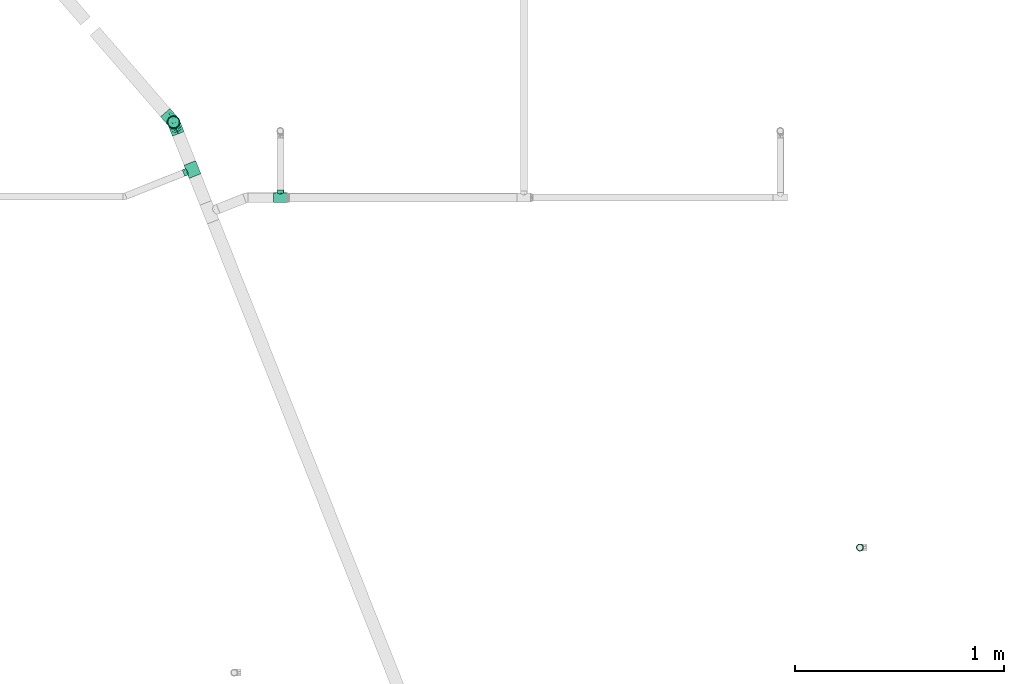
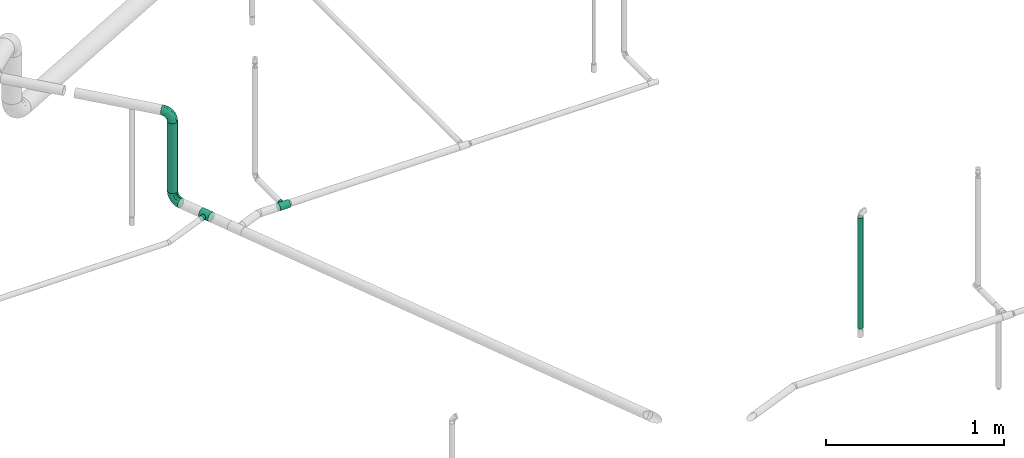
# One storey, part 10 of 94: 4 flow fittings, 2 flow segments.
"""IFC2X3 building model written with IfcOpenShell, lengths in millimetres."""

import ifcopenshell
import ifcopenshell.guid

model = None  # the IFC model being written
_history = None  # IfcOwnerHistory: only IFC2X3 demands one
_inside = {}  # id of a spatial element -> (the spatial element, [elements in it])
_under = {}  # id of a project, library or spatial element -> (it, [spatial elements below it])
_declared = {}  # id of a project -> (the project, [libraries it declares])
_typed = {}  # id of a type object -> (the type object, [elements of that type])
_made_of = {}  # id of a material, layer set ... -> (it, [elements and type objects made of it])


def new_model(schema):
    """Start an empty IFC model of exactly this schema.

    Asked for "IFC4X3", IfcOpenShell would pick the latest addendum, in which some entities
    have other attributes; the version numbers below select the first issue.
    IFC2X3 requires an IfcOwnerHistory on every rooted entity: one is made here for all.
    """
    global model, _history
    if schema == "IFC4X3":
        model = ifcopenshell.file(schema_version=(4, 3, 0, 0))
    else:
        model = ifcopenshell.file(schema=schema)
    _inside.clear()
    _under.clear()
    _declared.clear()
    _typed.clear()
    _made_of.clear()
    _history = None
    if model.schema == "IFC2X3":
        org = make("IfcOrganization", Name="unknown")
        user = make(
            "IfcPersonAndOrganization",
            ThePerson=make("IfcPerson", FamilyName="unknown"),
            TheOrganization=org,
        )
        app = make(
            "IfcApplication",
            ApplicationDeveloper=org,
            Version="unknown",
            ApplicationFullName="unknown",
            ApplicationIdentifier="unknown",
        )
        _history = make(
            "IfcOwnerHistory",
            OwningUser=user,
            OwningApplication=app,
            ChangeAction="ADDED",
            CreationDate=0,
        )
    return model


def make(cls, **values):
    """One entity of the class cls with the attributes given. An attribute that is None is left unset."""
    return model.create_entity(
        cls, **{name: value for name, value in values.items() if value is not None}
    )


def entity(cls, *values):
    """Any entity or typed value of the class cls, its attributes in the order of the schema. None: left unset."""
    e = model.create_entity(cls)
    for i, value in enumerate(values):
        if value is not None:
            e[i] = value
    return e


def rooted(cls, **values):
    """An entity with a GlobalId (a new one), such as an element, a storey or a relation."""
    return make(cls, GlobalId=ifcopenshell.guid.new(), OwnerHistory=_history, **values)


def si_unit(unit_type, name, prefix=None):
    """IfcSIUnit, for example si_unit("LENGTHUNIT", "METRE", prefix="MILLI")."""
    return make("IfcSIUnit", UnitType=unit_type, Prefix=prefix, Name=name)


def converted_unit(unit_type, name, factor, base, dimensions=None, offset=None):
    """IfcConversionBasedUnit, such as the inch: factor (a typed value) times the base unit."""
    return make(
        "IfcConversionBasedUnit"
        if offset is None
        else "IfcConversionBasedUnitWithOffset",
        ConversionOffset=offset,
        Dimensions=None
        if dimensions is None
        else entity("IfcDimensionalExponents", *dimensions),
        UnitType=unit_type,
        Name=name,
        ConversionFactor=make(
            "IfcMeasureWithUnit", ValueComponent=factor, UnitComponent=base
        ),
    )


def derived_unit(unit_type, elements):
    """IfcDerivedUnit: a product of units, each with its exponent."""
    return make(
        "IfcDerivedUnit",
        Elements=[
            make("IfcDerivedUnitElement", Unit=unit, Exponent=power)
            for unit, power in elements
        ],
        UnitType=unit_type,
    )


def assignment(units):
    """IfcUnitAssignment: the units of a project."""
    return None if units is None else make("IfcUnitAssignment", Units=units)


def point(xyz):
    """IfcCartesianPoint."""
    return None if xyz is None else make("IfcCartesianPoint", Coordinates=xyz)


def direction(xyz):
    """IfcDirection."""
    return None if xyz is None else make("IfcDirection", DirectionRatios=xyz)


def frame(location, z_axis=None, x_axis=None):
    """IfcAxis2Placement3D, a coordinate frame: its origin and axes. An axis left out is left unset."""
    return make(
        "IfcAxis2Placement3D",
        Location=point(location),
        Axis=direction(z_axis),
        RefDirection=direction(x_axis),
    )


def frame_2d(location, x_axis=None):
    """IfcAxis2Placement2D, a coordinate frame in the plane: its origin and x axis."""
    return make(
        "IfcAxis2Placement2D", Location=point(location), RefDirection=direction(x_axis)
    )


def origin_with_axes():
    """The frame at (0, 0, 0) with the z axis (0, 0, 1) and the x axis (1, 0, 0) written out."""
    return frame((0.0, 0.0, 0.0), z_axis=(0.0, 0.0, 1.0), x_axis=(1.0, 0.0, 0.0))


def origin_2d_with_axis():
    """The frame at (0, 0) in the plane with the x axis (1, 0) written out."""
    return frame_2d((0.0, 0.0), x_axis=(1.0, 0.0))


def place(relative_to, where):
    """IfcLocalPlacement: puts the frame where relative to a parent placement (None: the world)."""
    return make(
        "IfcLocalPlacement", PlacementRelTo=relative_to, RelativePlacement=where
    )


def context(
    kind, dimensions, precision=None, world=None, true_north=None, identifier=None
):
    """IfcGeometricRepresentationContext, for example the 3D "Model" context."""
    return make(
        "IfcGeometricRepresentationContext",
        ContextIdentifier=identifier,
        ContextType=kind,
        CoordinateSpaceDimension=dimensions,
        Precision=precision,
        WorldCoordinateSystem=world,
        TrueNorth=true_north,
    )


def subcontext(parent, identifier, kind, view, scale=None):
    """IfcGeometricRepresentationSubContext, for example "Body" below "Model"."""
    return make(
        "IfcGeometricRepresentationSubContext",
        ContextIdentifier=identifier,
        ContextType=kind,
        ParentContext=parent,
        TargetScale=scale,
        TargetView=view,
    )


def project(units=None, contexts=None):
    """IfcProject with its units and contexts."""
    return rooted(
        "IfcProject",
        Name="project",
        RepresentationContexts=contexts,
        UnitsInContext=assignment(units),
    )


def spatial(cls, under=None, at=None, **own):
    """A site, building, storey or space (cls), placed at a placement, below another one or the project."""
    s = rooted(cls, ObjectPlacement=at, **own)
    if under is not None:
        _under.setdefault(under.id(), (under, []))[1].append(s)
    return s


def profile(cls, at=None, kind="AREA", **sizes):
    """A parametric profile (cls). Its sizes go by their IFC names, for example OverallWidth=200.0."""
    return make(cls, ProfileType=kind, Position=at, **sizes)


def hollow_circle(**sizes):
    """IfcCircleHollowProfileDef."""
    return profile("IfcCircleHollowProfileDef", **sizes)


def extrude(swept, where, along, depth):
    """IfcExtrudedAreaSolid: the profile swept, set in the frame where, extruded along a direction by depth."""
    return make(
        "IfcExtrudedAreaSolid",
        SweptArea=swept,
        Position=where,
        ExtrudedDirection=direction(along),
        Depth=depth,
    )


def faces_of(points, faces, orient=None, outer=None):
    """IfcFace entities. A face is a list of loops; a loop is a list of indices into points, from 0.

    orient and outer hold one flag for each loop. By default every Orientation is true, the
    first loop of a face is its IfcFaceOuterBound and the others are IfcFaceBound.
    """
    made = []
    for i, loops in enumerate(faces):
        bounds = []
        for j, loop in enumerate(loops):
            is_outer = j == 0 if outer is None else outer[i][j]
            bounds.append(
                make(
                    "IfcFaceOuterBound" if is_outer else "IfcFaceBound",
                    Bound=make("IfcPolyLoop", Polygon=[points[k] for k in loop]),
                    Orientation=True if orient is None else orient[i][j],
                )
            )
        made.append(make("IfcFace", Bounds=bounds))
    return made


def open_shell(faces, orient=None, outer=None):
    """The faces of one IfcOpenShell. surface_model builds it on its shared points."""
    return ("IfcOpenShell", faces, orient, outer)


def surface_model(cls, points, shells):
    """IfcFaceBasedSurfaceModel or IfcShellBasedSurfaceModel (cls): surfaces that need not close."""
    shared = [point(p) for p in points]
    made = [make(c, CfsFaces=faces_of(shared, fs, o, b)) for c, fs, o, b in shells]
    if cls == "IfcFaceBasedSurfaceModel":
        return make(cls, FbsmFaces=made)
    return make(cls, SbsmBoundary=made)


def shape(context_of_items, identifier, shape_type, items):
    """IfcShapeRepresentation: the items that make up one representation, for example the "Body"."""
    return make(
        "IfcShapeRepresentation",
        ContextOfItems=context_of_items,
        RepresentationIdentifier=identifier,
        RepresentationType=shape_type,
        Items=items,
    )


def source(mapping_origin, context_of_items, identifier, shape_type, items):
    """IfcRepresentationMap: a shape defined once, which mapped items show again and again."""
    return make(
        "IfcRepresentationMap",
        MappingOrigin=mapping_origin,
        MappedRepresentation=shape(context_of_items, identifier, shape_type, items),
    )


def transform(
    local_origin,
    x_axis=None,
    y_axis=None,
    z_axis=None,
    scale=None,
    scale2=None,
    scale3=None,
    uniform=True,
):
    """IfcCartesianTransformationOperator3D, or its non-uniform kind. x_axis, y_axis, z_axis: its Axis1, 2, 3."""
    if uniform:
        return make(
            "IfcCartesianTransformationOperator3D",
            Axis1=direction(x_axis),
            Axis2=direction(y_axis),
            LocalOrigin=point(local_origin),
            Scale=scale,
            Axis3=direction(z_axis),
        )
    return make(
        "IfcCartesianTransformationOperator3DnonUniform",
        Axis1=direction(x_axis),
        Axis2=direction(y_axis),
        LocalOrigin=point(local_origin),
        Scale=scale,
        Axis3=direction(z_axis),
        Scale2=scale2,
        Scale3=scale3,
    )


def mapped(mapping_source, mapping_target):
    """IfcMappedItem: shows the shape of a source again, moved by a transform."""
    return make(
        "IfcMappedItem", MappingSource=mapping_source, MappingTarget=mapping_target
    )


def made_of(thing, what):
    """Note that an element or type object is made of a material, layer set ...; save() writes the relation."""
    if what is not None:
        _made_of.setdefault(what.id(), (what, []))[1].append(thing)
    return thing


def type_object(cls, material=None, **own):
    """A type object (cls), such as IfcWallType, which elements share."""
    return made_of(rooted(cls, **own), material)


def element(
    cls,
    number,
    at=None,
    inside=None,
    cuts=None,
    type_object=None,
    material=None,
    context=None,
    identifier="Body",
    shape_type=None,
    held_by="IfcProductDefinitionShape",
    body=None,
    shapes=None,
    **own,
):
    """One element of the class cls, such as IfcWall. Its Tag is "e" and its number.

    at: its placement. inside: the storey or other place that contains it. cuts: it is an
    opening in that element (IfcRelVoidsElement). A single representation is given by context,
    identifier, shape_type and body (its items); several are given by shapes. held_by: the class
    of the entity that holds the representations. save() writes the other relations.
    """
    e = rooted(cls, Tag="e%d" % number, ObjectPlacement=at, **own)
    if body is not None:
        shapes = [shape(context, identifier, shape_type, body)]
    if shapes is not None:
        e.Representation = make(held_by, Representations=shapes)
    if inside is not None:
        _inside.setdefault(inside.id(), (inside, []))[1].append(e)
    if cuts is not None:
        rooted(
            "IfcRelVoidsElement", RelatingBuildingElement=cuts, RelatedOpeningElement=e
        )
    if type_object is not None:
        _typed.setdefault(type_object.id(), (type_object, []))[1].append(e)
    return made_of(e, material)


def aggregate(whole, parts):
    """IfcRelAggregates: a whole, such as a stair, and the parts it consists of."""
    return rooted("IfcRelAggregates", RelatingObject=whole, RelatedObjects=parts)


def save(model, path):
    """Write the relations noted so far, then the file.

    IfcRelAggregates (storeys below a building ...), IfcRelContainedInSpatialStructure (elements
    in a storey), IfcRelDefinesByType, IfcRelAssociatesMaterial and IfcRelDeclares: one each for
    every whole, place, type object, material and project.
    """
    for whole, parts in _under.values():
        aggregate(whole, parts)
    for where, things in _inside.values():
        rooted(
            "IfcRelContainedInSpatialStructure",
            RelatedElements=things,
            RelatingStructure=where,
        )
    for kind, things in _typed.values():
        rooted("IfcRelDefinesByType", RelatedObjects=things, RelatingType=kind)
    for what, things in _made_of.values():
        rooted("IfcRelAssociatesMaterial", RelatedObjects=things, RelatingMaterial=what)
    for by, libraries in _declared.values():
        rooted("IfcRelDeclares", RelatingContext=by, RelatedDefinitions=libraries)
    model.write(path)


model = new_model("IFC2X3")

# Units and contexts
model_context = context("Model", 3, precision=0.01, world=frame((0.0, 4.29681676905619e-09, 0.0)), true_north=direction((4.01073788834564e-13, 1.0)))
plan_context = context("Plan", 3, precision=0.01, world=frame((0.0, 4.29681676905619e-09, 0.0)), true_north=direction((4.01073788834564e-13, 1.0)))
body_context = subcontext(model_context, "Body", "Model", "MODEL_VIEW")
ifc_project = project(units=[converted_unit("PLANEANGLEUNIT", "DEGREE", entity("IfcPositiveLengthMeasure", 0.0174532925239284), si_unit("PLANEANGLEUNIT", "RADIAN"), dimensions=[0, 0, 0, 0, 0, 0, 0]), si_unit("AREAUNIT", "SQUARE_METRE"), si_unit("LENGTHUNIT", "METRE", prefix="MILLI"), si_unit("MASSUNIT", "GRAM", prefix="KILO"), si_unit("POWERUNIT", "WATT"), si_unit("PRESSUREUNIT", "PASCAL", prefix="KILO"), si_unit("FORCEUNIT", "NEWTON", prefix="KILO"), si_unit("ELECTRICVOLTAGEUNIT", "VOLT"), si_unit("ELECTRICCURRENTUNIT", "AMPERE"), si_unit("THERMODYNAMICTEMPERATUREUNIT", "DEGREE_CELSIUS"), si_unit("TIMEUNIT", "SECOND"), si_unit("VOLUMEUNIT", "CUBIC_METRE"), derived_unit("LINEARVELOCITYUNIT", [(si_unit("LENGTHUNIT", "METRE"), 1), (si_unit("TIMEUNIT", "SECOND"), -1)]), derived_unit("VOLUMETRICFLOWRATEUNIT", [(si_unit("VOLUMEUNIT", "CUBIC_METRE"), 1), (si_unit("TIMEUNIT", "SECOND"), -1)]), derived_unit("THERMALTRANSMITTANCEUNIT", [(si_unit("POWERUNIT", "WATT"), 1), (si_unit("THERMODYNAMICTEMPERATUREUNIT", "KELVIN"), -1), (si_unit("AREAUNIT", "SQUARE_METRE"), -1)]), derived_unit("SOUNDPRESSUREUNIT", [(si_unit("PRESSUREUNIT", "PASCAL"), 1)])], contexts=[model_context, plan_context])

# Site, building, storey
site_placement = place(None, frame((0.0, -4.29681676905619e-09, 0.0), z_axis=(0.0, 0.0, 1.0), x_axis=(1.0, 0.0, 0.0)))
site = spatial("IfcSite", under=ifc_project, at=site_placement, CompositionType="ELEMENT")
building_placement = place(site_placement, frame((0.0, 4.29681676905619e-09, 0.0), z_axis=(0.0, 0.0, 1.0), x_axis=(1.0, 0.0, 0.0)))
building = spatial("IfcBuilding", under=site, at=building_placement, Name="mc-building", CompositionType="ELEMENT")
storey_placement = place(building_placement, frame((0.0, 0.0, 210900.0), z_axis=(0.0, 0.0, 1.0), x_axis=(1.0, 0.0, 0.0)))
storey = spatial("IfcBuildingStorey", under=building, at=storey_placement, Name="Nivå F", CompositionType="ELEMENT", Elevation=210900.0)

# Flow fittings
pipe_fitting_type_1 = type_object("IfcPipeFittingType", Name="magi_pipe_fe_tee_centric_90_NOR", PredefinedType="JUNCTION")
shared_shape_1 = source(origin_with_axes(), body_context, "Body", "SurfaceModel", [
    surface_model("IfcShellBasedSurfaceModel", [(-33.8, 0.0, -24.2), (-33.8, -6.26342, -23.37541), (-33.8, 6.26342, -23.37541), (-33.8, 12.1, -20.95781), (-33.8, 17.11198, -17.11198), (-33.8, 20.95781, -12.1), (-33.8, -23.37541, -6.26342), (-33.8, 23.37541, -6.26342), (-33.8, -17.11198, -17.11198), (-33.8, -20.95781, -12.1), (-33.8, -12.1, -20.95781), (-33.8, -24.2, 0.0), (-33.8, -23.37541, 6.26342), (-33.8, 20.95781, 12.1), (-33.8, 23.37541, 6.26342), (-33.8, 24.2, 0.0), (-33.8, 12.1, 20.95781), (-33.8, 17.11198, 17.11198), (-33.8, -17.11198, 17.11198), (-33.8, 6.26342, 23.37541), (-33.8, -20.95781, 12.1), (-33.8, -12.1, 20.95781), (-33.8, -6.26342, 23.37541), (-33.8, 0.0, 24.2), (33.8, 6.26342, -23.37541), (33.8, -6.26342, -23.37541), (33.8, 0.0, -24.2), (33.8, 17.11198, -17.11198), (33.8, 12.1, -20.95781), (33.8, -23.37541, -6.26342), (33.8, 20.95781, -12.1), (33.8, 23.37541, -6.26342), (33.8, -17.11198, -17.11198), (33.8, -12.1, -20.95781), (33.8, -20.95781, -12.1), (33.8, -24.2, 0.0), (33.8, 24.2, 0.0), (33.8, 23.37541, 6.26342), (33.8, 20.95781, 12.1), (33.8, -23.37541, 6.26342), (33.8, -17.11198, 17.11198), (33.8, 12.1, 20.95781), (33.8, 17.11198, 17.11198), (33.8, 6.26342, 23.37541), (33.8, -20.95781, 12.1), (33.8, -12.1, 20.95781), (33.8, 0.0, 24.2), (33.8, -6.26342, 23.37541), (15.81824, -23.45734, 5.94922), (16.9, -24.2, 0.0), (12.87025, -21.57947, 10.95293), (33.8, -19.0349, 14.60599), (8.52813, -19.30697, 14.59044), (3.03527, -17.5853, 16.6252), (-3.04044, -17.58619, 16.62425), (-8.52961, -19.30762, 14.58958), (-33.8, -19.0349, 14.60599), (-16.9, -24.2, 0.0), (-15.81885, -23.45775, 5.9476), (-12.87368, -21.58151, 10.9489), (3.03527, -17.5853, -16.6252), (33.8, -19.0349, -14.60599), (8.52813, -19.30697, -14.59044), (-8.52961, -19.30762, -14.58958), (-33.8, -19.0349, -14.60599), (12.87025, -21.57947, -10.95293), (-3.04044, -17.58619, -16.62425), (15.81824, -23.45734, -5.94922), (-12.87368, -21.58151, -10.9489), (-15.81885, -23.45775, -5.9476), (4.37404, -36.3, -16.32415), (-16.9, -36.3, 0.0), (0.0, -36.3, -16.9), (14.63583, -36.3, -8.45), (8.45, -36.3, -14.63583), (16.32415, -36.3, -4.37404), (11.9501, -36.3, -11.9501), (-11.9501, -36.3, -11.9501), (-8.45, -36.3, -14.63583), (-4.37404, -36.3, -16.32415), (-14.63583, -36.3, -8.45), (-16.32415, -36.3, -4.37404), (16.9, -36.3, 0.0), (8.45, -36.3, 14.63583), (16.32415, -36.3, 4.37404), (14.63583, -36.3, 8.45), (-8.45, -36.3, 14.63583), (11.9501, -36.3, 11.9501), (4.37404, -36.3, 16.32415), (-16.32415, -36.3, 4.37404), (-11.9501, -36.3, 11.9501), (-14.63583, -36.3, 8.45), (0.0, -36.3, 16.9), (-4.37404, -36.3, 16.32415), (-16.35943, -23.82888, 2.9738), (16.35912, -23.82867, 2.97461), (-0.00259, -17.58575, 16.62472), (16.35912, -23.82867, -2.97461), (-0.00259, -17.58575, -16.62472), (-16.35943, -23.82888, -2.9738)], [open_shell([[[0, 1, 2]], [[3, 2, 4]], [[5, 2, 6]], [[4, 2, 5]], [[7, 5, 6]], [[8, 9, 10]], [[1, 10, 9]], [[1, 9, 2]], [[9, 6, 2]], [[6, 11, 7]], [[11, 12, 7]], [[13, 14, 15]], [[13, 15, 12]], [[16, 17, 18]], [[12, 17, 13]], [[19, 16, 18]], [[20, 18, 12]], [[18, 17, 12]], [[21, 22, 18]], [[23, 18, 22]], [[18, 23, 19]], [[7, 12, 15]], [[24, 25, 26]], [[27, 24, 28]], [[29, 24, 30]], [[30, 24, 27]], [[29, 30, 31]], [[25, 32, 33]], [[32, 25, 34]], [[24, 34, 25]], [[24, 29, 34]], [[31, 35, 29]], [[31, 36, 35]], [[36, 37, 38]], [[39, 36, 38]], [[40, 38, 41]], [[41, 38, 42]], [[40, 41, 43]], [[39, 40, 44]], [[39, 38, 40]], [[45, 46, 47]], [[46, 45, 40]], [[43, 46, 40]], [[36, 39, 35]], [[35, 39, 48]], [[48, 49, 35]], [[39, 50, 48]], [[51, 40, 52]], [[52, 50, 44]], [[53, 52, 40]], [[54, 53, 21]], [[44, 50, 39]], [[55, 18, 56]], [[57, 58, 11]], [[12, 11, 58]], [[58, 59, 12]], [[55, 54, 18]], [[55, 20, 59]], [[20, 55, 56]], [[59, 20, 12]], [[18, 54, 21]], [[52, 44, 51]], [[53, 40, 45]], [[23, 47, 46]], [[22, 45, 47]], [[19, 46, 43]], [[38, 37, 14]], [[17, 41, 42]], [[13, 42, 38]], [[43, 41, 16]], [[15, 37, 36]], [[21, 45, 22]], [[22, 47, 23]], [[19, 23, 46]], [[43, 16, 19]], [[16, 41, 17]], [[13, 17, 42]], [[14, 13, 38]], [[37, 15, 14]], [[45, 21, 53]], [[5, 31, 30]], [[7, 36, 31]], [[4, 30, 27]], [[26, 25, 1]], [[2, 28, 24]], [[0, 24, 26]], [[27, 28, 3]], [[10, 25, 33]], [[15, 36, 7]], [[7, 31, 5]], [[4, 5, 30]], [[27, 3, 4]], [[3, 28, 2]], [[0, 2, 24]], [[1, 0, 26]], [[25, 10, 1]], [[33, 60, 10]], [[61, 34, 62]], [[63, 9, 64]], [[62, 60, 32]], [[34, 65, 62]], [[66, 10, 60]], [[29, 35, 67]], [[67, 65, 29]], [[49, 67, 35]], [[29, 65, 34]], [[66, 63, 8]], [[62, 32, 61]], [[64, 8, 63]], [[63, 68, 9]], [[8, 10, 66]], [[68, 69, 6]], [[69, 11, 6]], [[11, 69, 57]], [[68, 6, 9]], [[60, 33, 32]], [[70, 71, 72]], [[73, 70, 74]], [[73, 75, 70]], [[73, 74, 76]], [[71, 70, 75]], [[72, 77, 78]], [[78, 79, 72]], [[80, 71, 81]], [[77, 72, 80]], [[71, 80, 72]], [[75, 82, 71]], [[83, 82, 84]], [[83, 84, 85]], [[86, 71, 83]], [[83, 85, 87]], [[86, 83, 88]], [[89, 90, 91]], [[90, 89, 86]], [[86, 92, 93]], [[89, 71, 86]], [[88, 92, 86]], [[83, 71, 82]], [[89, 94, 71]], [[59, 91, 90]], [[89, 91, 58]], [[90, 86, 55]], [[89, 58, 94]], [[94, 57, 71]], [[58, 91, 59]], [[95, 48, 84]], [[55, 93, 54]], [[55, 59, 90]], [[92, 53, 96]], [[55, 86, 93]], [[53, 92, 88]], [[83, 52, 88]], [[87, 85, 50]], [[87, 52, 83]], [[48, 85, 84]], [[87, 50, 52]], [[52, 53, 88]], [[82, 95, 84]], [[48, 50, 85]], [[95, 82, 49]], [[92, 54, 93]], [[96, 54, 92]], [[75, 97, 82]], [[65, 73, 76]], [[75, 73, 67]], [[76, 74, 62]], [[97, 49, 82]], [[67, 73, 65]], [[62, 70, 60]], [[62, 65, 76]], [[72, 66, 98]], [[62, 74, 70]], [[99, 71, 57]], [[99, 69, 81]], [[75, 67, 97]], [[79, 66, 72]], [[69, 80, 81]], [[77, 80, 68]], [[72, 60, 70]], [[79, 63, 66]], [[63, 79, 78]], [[78, 77, 63]], [[63, 77, 68]], [[68, 80, 69]], [[71, 99, 81]], [[98, 60, 72]]])]),
])
flow_fitting_1_placement = place(storey_placement, frame((719221.4788, 440878.08755, 3600.0), z_axis=(0.0, 0.0, 1.0), x_axis=(-1.0, 0.0, 0.0)))
element("IfcFlowFitting", 1, at=flow_fitting_1_placement, inside=storey, type_object=pipe_fitting_type_1, Name="magi_pipe_fe_tee_centric_90_NOR", context=body_context, shape_type="MappedRepresentation", body=[
    mapped(shared_shape_1, transform((0.0, 0.0, 0.0), scale=1.0)),
])
shared_shape_2 = source(origin_with_axes(), body_context, "Body", "SurfaceModel", [
    surface_model("IfcShellBasedSurfaceModel", [(-33.8, 15.1, -26.15397), (-33.8, 7.81634, -29.17096), (-33.8, 0.0, -30.2), (-33.8, 29.17096, -7.81634), (-33.8, 26.15397, -15.1), (-33.8, 21.35462, -21.35462), (-33.8, 30.2, 0.0), (-33.8, -30.2, 0.0), (-33.8, -15.1, -26.15397), (-33.8, -21.35462, -21.35462), (-33.8, -7.81634, -29.17096), (-33.8, -26.15397, -15.1), (-33.8, -29.17096, -7.81634), (-33.8, 26.15397, 15.1), (-33.8, 29.17096, 7.81634), (-33.8, 15.1, 26.15397), (-33.8, -21.35462, 21.35462), (-33.8, 21.35462, 21.35462), (-33.8, 7.81634, 29.17096), (-33.8, -29.17096, 7.81634), (-33.8, -26.15397, 15.1), (-33.8, -7.81634, 29.17096), (-33.8, 0.0, 30.2), (-33.8, -15.1, 26.15397), (33.8, 29.17096, -7.81634), (33.8, 0.0, -30.2), (33.8, 7.81634, -29.17096), (33.8, 21.35462, -21.35462), (33.8, 15.1, -26.15397), (33.8, 26.15397, -15.1), (33.8, -30.2, 0.0), (33.8, -7.81634, -29.17096), (33.8, -21.35462, -21.35462), (33.8, -15.1, -26.15397), (33.8, -29.17096, -7.81634), (33.8, -26.15397, -15.1), (33.8, 30.2, 0.0), (33.8, 29.17096, 7.81634), (33.8, 26.15397, 15.1), (33.8, -29.17096, 7.81634), (33.8, 15.1, 26.15397), (33.8, 7.81634, 29.17096), (33.8, 21.35462, 21.35462), (33.8, -21.35462, 21.35462), (33.8, -26.15397, 15.1), (33.8, -15.1, 26.15397), (33.8, 0.0, 30.2), (33.8, -7.81634, 29.17096), (33.8, -29.68548, 3.90817), (15.846, -29.62306, 5.87488), (16.373, -29.91153, 2.93744), (12.91037, -28.16217, 10.90561), (2.99213, -25.2068, 16.63301), (16.9, -30.2, 0.0), (33.8, -27.66246, 11.45817), (8.50854, -26.43531, 14.60187), (-8.51006, -26.43579, 14.60099), (-33.8, -27.66246, 11.45817), (-12.91447, -28.16405, 10.90075), (-15.84655, -29.62335, 5.87341), (-33.8, -29.68548, 3.90817), (-16.37327, -29.91168, 2.93671), (-16.9, -30.2, 0.0), (-2.99705, -25.20739, 16.63213), (2.99213, -25.2068, -16.63301), (-16.37327, -29.91168, -2.93671), (8.50854, -26.43531, -14.60187), (33.8, -27.66246, -11.45817), (16.373, -29.91153, -2.93744), (-33.8, -29.68548, -3.90817), (-15.84655, -29.62335, -5.87341), (15.846, -29.62306, -5.87488), (12.91037, -28.16217, -10.90561), (33.8, -29.68548, -3.90817), (-2.99705, -25.20739, -16.63213), (-8.51006, -26.43579, -14.60099), (-12.91447, -28.16405, -10.90075), (-33.8, -27.66246, -11.45817), (4.37404, -45.3, -16.32415), (-16.9, -45.3, 0.0), (0.0, -45.3, -16.9), (14.63583, -45.3, -8.45), (8.45, -45.3, -14.63583), (16.32415, -45.3, -4.37404), (11.9501, -45.3, -11.9501), (-11.9501, -45.3, -11.9501), (-8.45, -45.3, -14.63583), (-4.37404, -45.3, -16.32415), (-14.63583, -45.3, -8.45), (-16.32415, -45.3, -4.37404), (16.9, -45.3, 0.0), (8.45, -45.3, 14.63583), (16.32415, -45.3, 4.37404), (14.63583, -45.3, 8.45), (-8.45, -45.3, 14.63583), (11.9501, -45.3, 11.9501), (4.37404, -45.3, 16.32415), (-16.32415, -45.3, 4.37404), (-11.9501, -45.3, 11.9501), (-14.63583, -45.3, 8.45), (0.0, -45.3, 16.9), (-4.37404, -45.3, 16.32415), (-5.75355, -25.82159, 15.61656), (-0.00246, -25.20709, 16.63257), (5.75034, -25.82105, 15.61744), (5.75034, -25.82105, -15.61744), (-0.00246, -25.20709, -16.63257), (-5.75355, -25.82159, -15.61656)], [open_shell([[[0, 1, 2]], [[3, 0, 2]], [[0, 3, 4]], [[5, 0, 4]], [[6, 2, 7]], [[8, 9, 10]], [[9, 2, 10]], [[11, 12, 9]], [[7, 9, 12]], [[9, 7, 2]], [[6, 3, 2]], [[13, 14, 6]], [[7, 15, 13]], [[7, 16, 15]], [[17, 13, 15]], [[18, 15, 16]], [[19, 20, 7]], [[7, 20, 16]], [[21, 22, 23]], [[16, 23, 22]], [[16, 22, 18]], [[7, 13, 6]], [[24, 25, 26]], [[27, 26, 28]], [[29, 24, 26]], [[29, 26, 27]], [[25, 24, 30]], [[31, 32, 33]], [[32, 31, 34]], [[32, 34, 35]], [[34, 31, 30]], [[31, 25, 30]], [[24, 36, 30]], [[36, 37, 38]], [[39, 36, 38]], [[40, 41, 38]], [[40, 38, 42]], [[43, 38, 41]], [[39, 43, 44]], [[39, 38, 43]], [[45, 46, 47]], [[46, 45, 43]], [[41, 46, 43]], [[36, 39, 30]], [[48, 39, 49]], [[30, 48, 50]], [[39, 51, 49]], [[44, 43, 52]], [[30, 50, 53]], [[51, 54, 55]], [[52, 55, 44]], [[48, 49, 50]], [[43, 16, 52]], [[55, 54, 44]], [[56, 57, 58]], [[59, 60, 61]], [[62, 61, 7]], [[59, 58, 19]], [[56, 63, 20]], [[51, 39, 54]], [[20, 57, 56]], [[20, 63, 16]], [[58, 57, 19]], [[63, 52, 16]], [[7, 61, 60]], [[59, 19, 60]], [[43, 23, 16]], [[22, 47, 46]], [[21, 45, 47]], [[18, 46, 41]], [[38, 37, 14]], [[17, 40, 42]], [[13, 42, 38]], [[41, 40, 15]], [[6, 37, 36]], [[23, 45, 21]], [[21, 47, 22]], [[18, 22, 46]], [[41, 15, 18]], [[15, 40, 17]], [[13, 17, 42]], [[14, 13, 38]], [[37, 6, 14]], [[45, 23, 43]], [[4, 24, 29]], [[3, 36, 24]], [[5, 29, 27]], [[25, 31, 10]], [[1, 28, 26]], [[2, 26, 25]], [[27, 28, 0]], [[8, 31, 33]], [[6, 36, 3]], [[3, 24, 4]], [[5, 4, 29]], [[27, 0, 5]], [[0, 28, 1]], [[2, 1, 26]], [[10, 2, 25]], [[31, 8, 10]], [[33, 9, 8]], [[32, 35, 64]], [[7, 65, 62]], [[66, 64, 35]], [[67, 66, 35]], [[32, 64, 9]], [[53, 68, 30]], [[69, 70, 65]], [[71, 72, 34]], [[71, 73, 68]], [[66, 67, 72]], [[34, 72, 67]], [[74, 75, 11]], [[76, 12, 77]], [[11, 9, 74]], [[76, 77, 75]], [[74, 9, 64]], [[76, 70, 12]], [[71, 34, 73]], [[70, 69, 12]], [[65, 7, 69]], [[30, 68, 73]], [[77, 11, 75]], [[32, 9, 33]], [[78, 79, 80]], [[81, 78, 82]], [[81, 83, 78]], [[81, 82, 84]], [[79, 78, 83]], [[80, 85, 86]], [[86, 87, 80]], [[88, 79, 89]], [[85, 80, 88]], [[79, 88, 80]], [[83, 90, 79]], [[91, 90, 92]], [[91, 92, 93]], [[94, 79, 91]], [[91, 93, 95]], [[94, 91, 96]], [[97, 98, 99]], [[98, 97, 94]], [[94, 100, 101]], [[97, 79, 94]], [[96, 100, 94]], [[91, 79, 90]], [[97, 61, 79]], [[58, 99, 98]], [[97, 99, 59]], [[98, 94, 56]], [[61, 62, 79]], [[59, 99, 58]], [[101, 63, 102]], [[56, 58, 98]], [[100, 52, 103]], [[91, 104, 96]], [[100, 96, 52]], [[50, 49, 92]], [[50, 90, 53]], [[104, 91, 55]], [[102, 94, 101]], [[102, 56, 94]], [[100, 63, 101]], [[97, 59, 61]], [[55, 91, 95]], [[95, 51, 55]], [[52, 96, 104]], [[92, 49, 93]], [[90, 50, 92]], [[93, 49, 51]], [[93, 51, 95]], [[103, 63, 100]], [[83, 68, 90]], [[72, 81, 84]], [[83, 81, 71]], [[84, 82, 66]], [[68, 53, 90]], [[71, 81, 72]], [[78, 64, 105]], [[66, 72, 84]], [[80, 74, 106]], [[86, 107, 87]], [[65, 70, 89]], [[105, 82, 78]], [[105, 66, 82]], [[75, 86, 85]], [[83, 71, 68]], [[70, 88, 89]], [[65, 79, 62]], [[85, 88, 76]], [[80, 64, 78]], [[87, 107, 74]], [[74, 80, 87]], [[75, 107, 86]], [[75, 85, 76]], [[76, 88, 70]], [[79, 65, 89]], [[106, 64, 80]]])]),
])
flow_fitting_2_placement = place(storey_placement, frame((718800.08573, 441012.8206, 3600.0), z_axis=(0.0, 0.0, -1.0), x_axis=(-0.369451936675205, 0.929249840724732, 0.0)))
element("IfcFlowFitting", 2, at=flow_fitting_2_placement, inside=storey, type_object=pipe_fitting_type_1, Name="magi_pipe_fe_tee_centric_90_NOR", context=body_context, shape_type="MappedRepresentation", body=[
    mapped(shared_shape_2, transform((0.0, 0.0, 0.0), scale=1.0)),
])
pipe_fitting_type_2 = type_object("IfcPipeFittingType", Name="magi_pipe_fe_elbow_short_001", PredefinedType="BEND")
shared_shape_3 = source(origin_with_axes(), body_context, "Body", "SurfaceModel", [
    surface_model("IfcShellBasedSurfaceModel", [(-60.4, 15.1, -26.15397), (-60.4, 7.81634, -29.17096), (-60.4, 0.0, -30.2), (-60.4, -21.35462, -21.35462), (-60.4, 26.15397, -15.1), (-60.4, 21.35462, -21.35462), (-60.4, 29.17096, -7.81634), (-60.4, -15.1, -26.15397), (-60.4, -7.81634, -29.17096), (-60.4, -26.15397, -15.1), (-60.4, -29.17096, -7.81634), (-60.4, -30.2, 0.0), (-60.4, -29.17096, 7.81634), (-60.4, 29.17096, 7.81634), (-60.4, -21.35462, 21.35462), (-60.4, 26.15397, 15.1), (-60.4, 21.35462, 21.35462), (-60.4, 7.81634, 29.17096), (-60.4, 15.1, 26.15397), (-60.4, -26.15397, 15.1), (-60.4, -7.81634, 29.17096), (-60.4, 0.0, 30.2), (-60.4, -15.1, 26.15397), (-60.4, 30.2, 0.0), (0.0, 60.4, -30.2), (-7.81634, 60.4, -29.17096), (-15.1, 60.4, -26.15397), (-26.15397, 60.4, -15.1), (-29.17096, 60.4, -7.81634), (-21.35462, 60.4, -21.35462), (29.17096, 60.4, -7.81634), (7.81634, 60.4, -29.17096), (21.35462, 60.4, -21.35462), (15.1, 60.4, -26.15397), (26.15397, 60.4, -15.1), (29.17096, 60.4, 7.81634), (30.2, 60.4, 0.0), (-29.17096, 60.4, 7.81634), (21.35462, 60.4, 21.35462), (-21.35462, 60.4, 21.35462), (-26.15397, 60.4, 15.1), (-15.1, 60.4, 26.15397), (-7.81634, 60.4, 29.17096), (26.15397, 60.4, 15.1), (15.1, 60.4, 26.15397), (0.0, 60.4, 30.2), (7.81634, 60.4, 29.17096), (-30.2, 60.4, 0.0), (-40.79975, -26.48639, 9.49143), (-44.2927, -23.46036, 16.95222), (-32.40306, -25.76572, 0.0), (-45.54716, -27.84754, 0.0), (-7.73382, -10.42985, 11.64553), (-2.102, -8.06735, 6.35117), (1.74449, -1.74448, 12.51332), (-46.13593, -4.00068, 29.68351), (-42.2898, 4.62925, 30.14853), (10.31662, 7.37496, 11.34434), (18.44156, 24.57514, 15.02148), (7.07276, 10.95732, 19.27498), (-30.06693, -0.27102, 29.27145), (-44.17726, -11.39441, 27.16031), (-23.4551, -7.13383, 25.24246), (-38.74025, -17.25266, 22.43475), (-27.059, -23.14697, 6.2131), (-19.77486, -19.33133, 0.0), (-10.95732, -7.07276, 19.27498), (-5.39458, 5.39458, 24.69106), (-29.52069, 48.20084, 13.12597), (-25.22813, 47.01796, 19.8404), (-11.27311, 52.093, 28.2877), (-4.13904, 45.17494, 30.12582), (-46.55352, 11.8443, 28.52822), (-7.88305, 20.22717, 29.65331), (-15.00576, 5.54025, 28.20072), (-3.0852, 16.31623, 27.75343), (-52.24998, 18.2886, 24.60768), (-10.49591, 29.69865, 30.14582), (-22.36958, 22.36958, 29.4662), (-17.98262, 13.19715, 30.04443), (-47.74519, 32.16745, 6.63994), (-48.21585, 29.51581, 13.12396), (-37.49729, 37.49729, 11.28901), (-47.20967, 25.1754, 19.81929), (17.25266, 38.74025, 22.43475), (-31.32046, 40.03273, 17.09289), (11.39441, 44.17725, 27.16031), (23.46036, 44.2927, 16.95222), (26.48639, 40.79975, 9.49143), (-7.14666, -12.89694, 0.0), (-14.66463, -16.61192, 7.82462), (4.00068, 46.13593, 29.68351), (-33.18602, 12.93608, 29.65955), (-29.63414, 7.40029, 30.18711), (19.33133, 19.77486, 0.0), (23.14697, 27.059, 6.2131), (16.61192, 14.66463, 7.82462), (27.84754, 45.54716, 0.0), (-32.10611, 20.49149, 27.93323), (-24.57514, -18.44156, 15.02148), (-21.89487, 39.03366, 25.38224), (-18.45005, 50.6405, 24.73297), (-31.78933, 48.71949, 6.47886), (-37.84917, 39.61073, 5.315), (13.91334, 24.32737, 20.46816), (7.13383, 23.4551, 25.24246), (-34.24603, 45.3, 0.0), (-27.95749, 31.89166, 24.81537), (-41.58677, 20.50028, 25.43151), (-0.46157, 0.46157, 17.84239), (-17.23338, 31.26213, 29.03145), (-24.05994, 29.23812, 27.47858), (-13.06094, 40.92174, 28.76128), (-31.83392, 33.72702, 21.39203), (-38.78737, 32.45032, 16.84022), (0.27102, 30.06693, 29.27145), (-24.21469, -13.23741, 21.05734), (8.23548, 2.19333, 6.02161), (25.76572, 32.40306, 0.0), (12.89694, 7.14666, 0.0), (-45.3, 34.24603, 0.0), (2.87514, -2.87514, 0.0), (-44.53432, 26.00869, -20.11577), (-48.18822, 29.5248, -13.12766), (-24.67192, -7.62159, -25.33714), (-26.22398, -0.37671, -28.72374), (-12.13397, -0.50536, -24.74577), (-47.80891, 3.81859, -30.10171), (-44.05719, -27.03585, -9.84546), (-37.94552, -22.39569, -16.35738), (-28.81663, -22.64668, -10.132), (-43.93799, 12.32789, -28.63778), (-33.27, 7.1392, -30.19348), (-26.0087, 44.53432, -20.11577), (-48.89164, 31.68872, -6.60822), (-18.95522, 47.41145, -24.9828), (-12.32789, 43.93799, -28.63778), (-38.42778, 38.42778, -7.21049), (18.04263, 43.69152, -22.80146), (10.42233, 38.24532, -26.85918), (11.90576, 51.00473, -27.48545), (-5.88381, -10.62327, -7.95335), (-5.9694, -7.83116, -13.76182), (3.24899, -2.56331, -7.96861), (-17.62229, 16.32998, -30.18286), (-28.62959, 17.86952, -29.30113), (-47.41145, 18.95522, -24.98279), (-50.84455, -24.04089, -17.54629), (-29.38053, 34.30665, -22.74674), (-27.91099, 27.91099, -26.51666), (-36.91219, 25.51094, -23.99233), (2.63361, -0.55507, -12.94367), (-43.69152, -18.04263, -22.80146), (22.39569, 37.94552, -16.35738), (27.03585, 44.05719, -9.84546), (22.64668, 28.81663, -10.132), (-51.00473, -11.90576, -27.48545), (3.80785, 44.49426, -29.64782), (-19.0921, -14.69952, -16.47487), (-22.5489, -12.31934, -21.1263), (-10.94772, -7.46239, -18.88204), (-32.95885, -13.78948, -23.71249), (-38.24532, -10.42233, -26.85918), (-44.49427, -3.80785, -29.64782), (-22.6301, 37.15314, -25.58239), (-31.68872, 48.89164, -6.60822), (-3.8186, 47.80891, -30.10171), (-10.66133, 10.66133, -28.51691), (0.37671, 26.22398, -28.72374), (1.27136, 14.18619, -25.18541), (-29.5248, 48.18821, -13.12766), (-36.27113, 36.27113, -14.88553), (24.04089, 50.84455, -17.54629), (17.50188, 24.2636, -16.21902), (9.73525, 11.44907, -16.75087), (12.31934, 22.5489, -21.1263), (6.24176, 25.78208, -26.38266), (-7.1392, 33.27, -30.19348), (-36.7166, 19.4356, -27.21946), (-18.00754, 29.38864, -29.15505), (-0.28629, 0.28629, -17.49884), (-13.98848, -16.88492, -5.19509), (15.48569, 15.00432, -11.24742), (16.88492, 13.98848, -5.19509), (3.55782, 9.20508, -21.18402), (-15.00432, -15.48569, -11.24742)], [open_shell([[[0, 1, 2]], [[0, 2, 3]], [[4, 0, 3]], [[5, 0, 4]], [[6, 4, 3]], [[7, 3, 8]], [[3, 2, 8]], [[9, 10, 3]], [[3, 10, 6]], [[11, 12, 10]], [[13, 6, 10]], [[13, 10, 14]], [[15, 13, 16]], [[17, 18, 16]], [[13, 17, 16]], [[17, 13, 14]], [[19, 14, 12]], [[12, 14, 10]], [[20, 21, 22]], [[17, 14, 22]], [[17, 22, 21]], [[13, 23, 6]], [[24, 25, 26]], [[24, 26, 27]], [[27, 28, 24]], [[27, 26, 29]], [[24, 28, 30]], [[31, 32, 33]], [[31, 24, 32]], [[32, 30, 34]], [[24, 30, 32]], [[30, 35, 36]], [[30, 28, 37]], [[38, 30, 37]], [[39, 37, 40]], [[39, 41, 42]], [[39, 42, 37]], [[38, 37, 42]], [[35, 38, 43]], [[30, 38, 35]], [[44, 45, 46]], [[44, 38, 42]], [[45, 44, 42]], [[28, 47, 37]], [[48, 49, 19]], [[50, 48, 51]], [[52, 53, 54]], [[12, 48, 19]], [[12, 51, 48]], [[21, 55, 56]], [[19, 49, 14]], [[57, 58, 59]], [[60, 61, 62]], [[63, 22, 14]], [[63, 61, 22]], [[64, 50, 65]], [[62, 66, 67]], [[40, 68, 69]], [[42, 70, 71]], [[17, 72, 18]], [[73, 74, 75]], [[18, 76, 16]], [[20, 55, 21]], [[77, 78, 79]], [[80, 81, 82]], [[15, 83, 81]], [[84, 38, 44]], [[23, 13, 80]], [[13, 15, 81]], [[68, 85, 69]], [[83, 15, 16]], [[21, 56, 17]], [[44, 86, 84]], [[16, 76, 83]], [[87, 58, 88]], [[40, 37, 68]], [[89, 90, 65]], [[45, 91, 46]], [[65, 90, 64]], [[45, 42, 71]], [[92, 93, 79]], [[88, 35, 43]], [[43, 38, 87]], [[87, 88, 43]], [[94, 95, 96]], [[88, 97, 35]], [[98, 72, 92]], [[49, 99, 63]], [[69, 100, 101]], [[82, 102, 103]], [[104, 105, 59]], [[106, 102, 47]], [[98, 107, 108]], [[102, 82, 68]], [[86, 44, 46]], [[69, 39, 40]], [[109, 54, 57]], [[110, 100, 111]], [[22, 61, 20]], [[101, 41, 39]], [[70, 42, 41]], [[112, 77, 71]], [[84, 86, 105]], [[96, 95, 58]], [[100, 69, 113]], [[72, 17, 56]], [[108, 113, 83]], [[81, 114, 82]], [[112, 110, 77]], [[91, 71, 115]], [[62, 61, 63]], [[55, 61, 60]], [[116, 99, 66]], [[74, 62, 67]], [[91, 86, 46]], [[105, 86, 115]], [[75, 105, 115]], [[109, 67, 66]], [[59, 105, 67]], [[48, 64, 99]], [[99, 49, 48]], [[63, 14, 49]], [[38, 84, 87]], [[58, 87, 84]], [[92, 72, 56]], [[76, 72, 108]], [[102, 68, 37]], [[82, 114, 85]], [[98, 111, 107]], [[112, 70, 101]], [[114, 83, 113]], [[82, 103, 80]], [[92, 79, 78]], [[115, 71, 77]], [[74, 79, 60]], [[77, 79, 73]], [[71, 91, 45]], [[86, 91, 115]], [[61, 55, 20]], [[56, 55, 60]], [[57, 54, 117]], [[104, 59, 58]], [[116, 66, 62]], [[52, 99, 90]], [[12, 11, 51]], [[97, 88, 118]], [[97, 36, 35]], [[53, 90, 89]], [[90, 53, 52]], [[94, 96, 119]], [[88, 95, 118]], [[117, 54, 53]], [[92, 56, 93]], [[98, 92, 78]], [[111, 98, 78]], [[72, 98, 108]], [[110, 111, 78]], [[107, 111, 100]], [[47, 102, 37]], [[102, 106, 103]], [[106, 120, 103]], [[103, 120, 80]], [[23, 80, 120]], [[13, 81, 80]], [[56, 60, 93]], [[60, 79, 93]], [[117, 121, 119]], [[121, 117, 53]], [[53, 89, 121]], [[119, 96, 117]], [[117, 96, 57]], [[77, 110, 78]], [[100, 110, 112]], [[83, 114, 81]], [[85, 114, 113]], [[69, 85, 113]], [[82, 85, 68]], [[109, 52, 54]], [[99, 52, 66]], [[69, 101, 39]], [[112, 101, 100]], [[100, 113, 107]], [[108, 107, 113]], [[62, 74, 60]], [[75, 74, 67]], [[105, 75, 67]], [[73, 75, 115]], [[77, 73, 115]], [[74, 73, 79]], [[99, 64, 90]], [[50, 64, 48]], [[118, 95, 94]], [[58, 95, 88]], [[58, 57, 96]], [[109, 57, 59]], [[72, 76, 18]], [[83, 76, 108]], [[101, 70, 41]], [[71, 70, 112]], [[58, 84, 104]], [[105, 104, 84]], [[67, 109, 59]], [[52, 109, 66]], [[62, 63, 116]], [[99, 116, 63]], [[122, 4, 123]], [[124, 125, 126]], [[2, 1, 127]], [[128, 129, 130]], [[127, 131, 132]], [[27, 29, 133]], [[120, 134, 23]], [[135, 26, 136]], [[123, 134, 137]], [[138, 139, 140]], [[122, 5, 4]], [[141, 142, 143]], [[144, 132, 145]], [[131, 0, 146]], [[128, 9, 147]], [[148, 149, 150]], [[128, 51, 10]], [[142, 151, 143]], [[152, 3, 7]], [[153, 154, 155]], [[156, 152, 7]], [[31, 157, 24]], [[158, 159, 160]], [[147, 9, 3]], [[129, 152, 161]], [[156, 7, 8]], [[162, 163, 125]], [[154, 34, 30]], [[120, 106, 137]], [[149, 148, 164]], [[47, 28, 165]], [[163, 8, 2]], [[4, 6, 123]], [[25, 166, 136]], [[167, 168, 169]], [[170, 133, 171]], [[25, 24, 166]], [[33, 32, 138]], [[157, 31, 140]], [[28, 27, 170]], [[32, 34, 172]], [[26, 135, 29]], [[132, 131, 145]], [[31, 33, 140]], [[173, 174, 175]], [[169, 168, 176]], [[25, 136, 26]], [[175, 138, 173]], [[168, 177, 157]], [[163, 162, 156]], [[153, 172, 154]], [[9, 128, 10]], [[154, 97, 118]], [[131, 178, 145]], [[0, 5, 146]], [[175, 139, 138]], [[155, 118, 94]], [[131, 1, 0]], [[146, 178, 131]], [[170, 137, 165]], [[149, 179, 145]], [[171, 133, 148]], [[160, 180, 142]], [[65, 181, 89]], [[170, 165, 28]], [[137, 171, 123]], [[172, 138, 32]], [[138, 153, 173]], [[168, 157, 139]], [[166, 157, 177]], [[176, 175, 169]], [[168, 167, 144]], [[154, 30, 97]], [[155, 182, 173]], [[162, 124, 161]], [[147, 152, 129]], [[127, 163, 2]], [[132, 144, 125]], [[132, 125, 163]], [[125, 167, 126]], [[129, 158, 130]], [[30, 36, 97]], [[143, 182, 183]], [[169, 126, 167]], [[5, 122, 146]], [[178, 150, 149]], [[136, 179, 164]], [[133, 29, 135]], [[123, 6, 134]], [[122, 123, 171]], [[133, 170, 27]], [[137, 170, 171]], [[184, 175, 174]], [[180, 160, 126]], [[126, 169, 184]], [[126, 159, 124]], [[51, 128, 50]], [[51, 11, 10]], [[131, 127, 1]], [[163, 127, 132]], [[157, 166, 24]], [[136, 166, 177]], [[164, 179, 149]], [[144, 167, 125]], [[179, 144, 145]], [[168, 144, 177]], [[136, 177, 179]], [[144, 179, 177]], [[141, 121, 89]], [[89, 181, 141]], [[154, 118, 155]], [[183, 155, 94]], [[143, 183, 119]], [[119, 183, 94]], [[155, 183, 182]], [[181, 130, 185]], [[50, 128, 130]], [[130, 181, 65]], [[50, 130, 65]], [[141, 181, 185]], [[142, 141, 185]], [[143, 121, 141]], [[158, 160, 142]], [[142, 180, 151]], [[158, 142, 185]], [[126, 160, 159]], [[130, 158, 185]], [[129, 159, 158]], [[23, 134, 6]], [[120, 137, 134]], [[137, 106, 165]], [[47, 165, 106]], [[174, 151, 180]], [[182, 143, 151]], [[150, 146, 122]], [[149, 145, 178]], [[146, 150, 178]], [[122, 171, 148]], [[148, 150, 122]], [[164, 133, 135]], [[133, 164, 148]], [[164, 135, 136]], [[138, 140, 33]], [[157, 140, 139]], [[154, 172, 34]], [[138, 172, 153]], [[163, 156, 8]], [[152, 156, 162]], [[152, 147, 3]], [[128, 147, 129]], [[155, 173, 153]], [[174, 173, 182]], [[151, 174, 182]], [[174, 180, 184]], [[126, 184, 180]], [[175, 184, 169]], [[168, 139, 176]], [[175, 176, 139]], [[161, 124, 159]], [[125, 124, 162]], [[129, 161, 159]], [[162, 161, 152]], [[143, 119, 121]]])]),
])
for number, where, z_axis, x_axis, name in (
    (3, (718709.75966, 441240.00947, 4200.0), (0.754709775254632, 0.65605880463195, 0.0), (0.65605880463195, -0.754709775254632, 0.0), "magi_pipe_fe_elbow_short_001"),
    (4, (718709.75966, 441240.00947, 3600.0), (-0.929249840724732, -0.369451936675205, 0.0), (0.0, 0.0, -1.0), "magi_pipe_fe_elbow_short_001"),
):
    element("IfcFlowFitting", number, at=place(storey_placement, frame(where, z_axis=z_axis, x_axis=x_axis)), inside=storey, type_object=pipe_fitting_type_2, Name=name, context=body_context, shape_type="MappedRepresentation", body=[
        mapped(shared_shape_3, transform((0.0, 0.0, 0.0), scale=1.0)),
    ])

# Flow segments
pipe_segment_type = type_object("IfcPipeSegmentType", Name="Stålrør normaltykke", PredefinedType="RIGIDSEGMENT")
shared_shape_4 = source(origin_with_axes(), body_context, "Body", "SweptSolid", [
    extrude(hollow_circle(Radius=30.1, WallThickness=2.0, at=origin_2d_with_axis()), frame((0.0, 0.0, 0.0), z_axis=(1.0, 0.0, 0.0), x_axis=(0.0, 1.0, 0.0)), (0.0, 0.0, 1.0), 479.2),
])
flow_segment_1_placement = place(storey_placement, frame((718709.75966, 441240.00947, 4139.60000000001), z_axis=(0.65605880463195, -0.754709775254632, 0.0), x_axis=(0.0, 0.0, -1.0)))
element("IfcFlowSegment", 5, at=flow_segment_1_placement, inside=storey, type_object=pipe_segment_type, Name="Stålrør normaltykke", context=body_context, shape_type="MappedRepresentation", body=[
    mapped(shared_shape_4, transform((0.0, 0.0, 0.0), scale=1.0)),
])
shared_shape_5 = source(origin_with_axes(), body_context, "Body", "SweptSolid", [
    extrude(hollow_circle(Radius=16.9, WallThickness=2.0, at=origin_2d_with_axis()), frame((0.0, 0.0, 0.0), z_axis=(1.0, 0.0, 0.0), x_axis=(0.0, 1.0, 0.0)), (0.0, 0.0, 1.0), 759.3),
])
flow_segment_2_placement = place(storey_placement, frame((722000.0, 439200.7, 2806.89074), z_axis=(0.0, 1.0, 0.0), x_axis=(0.0, 0.0, 1.0)))
element("IfcFlowSegment", 6, at=flow_segment_2_placement, inside=storey, type_object=pipe_segment_type, Name="Stålrør normaltykke", context=body_context, shape_type="MappedRepresentation", body=[
    mapped(shared_shape_5, transform((0.0, 0.0, 0.0), scale=1.0)),
])

save(model, "model.ifc")
